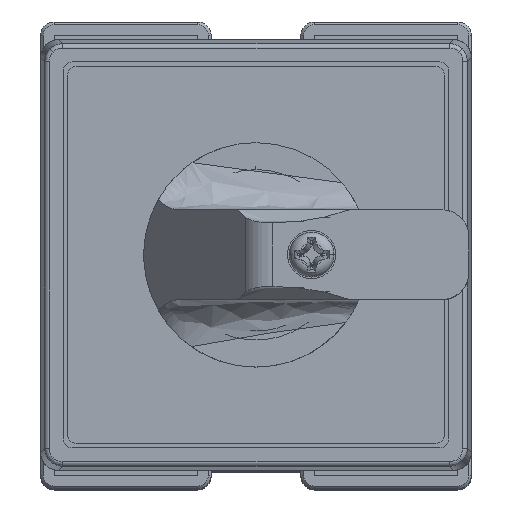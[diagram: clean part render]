
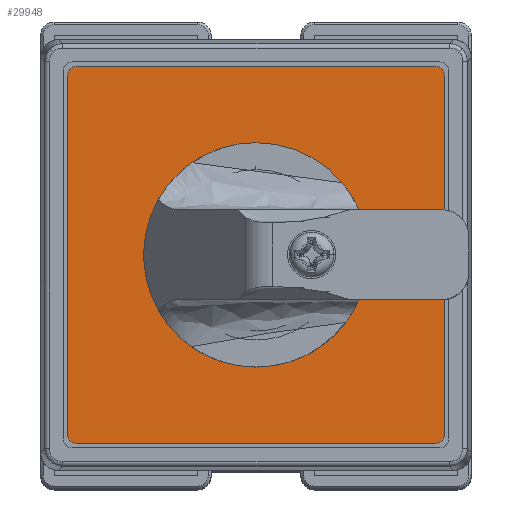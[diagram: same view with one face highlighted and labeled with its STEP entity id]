
A CAD part, top view. The second image highlights one B-rep face of the part: STEP entity #29948.
In plain terms, the highlighted planar face has unit normal (0, 0, 1).
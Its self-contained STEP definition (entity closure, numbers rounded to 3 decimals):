
#10532 = DIRECTION ( 'NONE',  ( 0., 0., 1. ) ) ;
#17238 = EDGE_CURVE ( 'NONE', #184208, #254986, #264894, .T. ) ;
#18656 = EDGE_LOOP ( 'NONE', ( #230741, #203705 ) ) ;
#23817 = CARTESIAN_POINT ( 'NONE',  ( -14.639, -25.111, -44.982 ) ) ;
#29948 = ADVANCED_FACE ( 'NONE', ( #121082, #161622 ), #250257, .T. ) ;
#33981 = VERTEX_POINT ( 'NONE', #166808 ) ;
#37552 = LINE ( 'NONE', #92287, #221754 ) ;
#38969 = CARTESIAN_POINT ( 'NONE',  ( -13.639, 14.889, -44.982 ) ) ;
#43922 = LINE ( 'NONE', #218848, #106492 ) ;
#44716 = DIRECTION ( 'NONE',  ( 0., -1., 0. ) ) ;
#46265 = VERTEX_POINT ( 'NONE', #285422 ) ;
#46593 = CARTESIAN_POINT ( 'NONE',  ( -13.639, 14.889, -44.982 ) ) ;
#47921 = ORIENTED_EDGE ( 'NONE', *, *, #118371, .T. ) ;
#48528 = VERTEX_POINT ( 'NONE', #23817 ) ;
#51330 = EDGE_CURVE ( 'NONE', #201346, #142029, #81443, .T. ) ;
#52523 = VERTEX_POINT ( 'NONE', #102616 ) ;
#63144 = VERTEX_POINT ( 'NONE', #113910 ) ;
#63356 = DIRECTION ( 'NONE',  ( 0., 0., 1. ) ) ;
#63620 = DIRECTION ( 'NONE',  ( 0., 1., 0. ) ) ;
#67969 = CARTESIAN_POINT ( 'NONE',  ( 6.361, 5.239, -44.982 ) ) ;
#80773 = CIRCLE ( 'NONE', #80787, 1. ) ;
#80787 = AXIS2_PLACEMENT_3D ( 'NONE', #46593, #116627, #189741 ) ;
#81443 = CIRCLE ( 'NONE', #263126, 1. ) ;
#81783 = DIRECTION ( 'NONE',  ( 0., -1., 0. ) ) ;
#89817 = ORIENTED_EDGE ( 'NONE', *, *, #212605, .T. ) ;
#92287 = CARTESIAN_POINT ( 'NONE',  ( -14.639, -25.111, -44.982 ) ) ;
#92752 = ORIENTED_EDGE ( 'NONE', *, *, #124027, .T. ) ;
#102072 = LINE ( 'NONE', #111651, #201948 ) ;
#102616 = CARTESIAN_POINT ( 'NONE',  ( -14.639, 14.889, -44.982 ) ) ;
#103357 = CARTESIAN_POINT ( 'NONE',  ( 26.361, -25.111, -44.982 ) ) ;
#106492 = VECTOR ( 'NONE', #289198, 1000. ) ;
#107303 = CARTESIAN_POINT ( 'NONE',  ( 26.361, 14.889, -44.982 ) ) ;
#108961 = DIRECTION ( 'NONE',  ( 0., 0., 1. ) ) ;
#111651 = CARTESIAN_POINT ( 'NONE',  ( -13.639, 15.889, -44.982 ) ) ;
#113632 = EDGE_CURVE ( 'NONE', #48528, #33981, #143587, .T. ) ;
#113910 = CARTESIAN_POINT ( 'NONE',  ( 27.361, 14.889, -44.982 ) ) ;
#115988 = DIRECTION ( 'NONE',  ( 0., 1., 0. ) ) ;
#116627 = DIRECTION ( 'NONE',  ( 0., 0., 1. ) ) ;
#118371 = EDGE_CURVE ( 'NONE', #52523, #48528, #37552, .T. ) ;
#121082 = FACE_OUTER_BOUND ( 'NONE', #161580, .T. ) ;
#124027 = EDGE_CURVE ( 'NONE', #46265, #52523, #80773, .T. ) ;
#124097 = ORIENTED_EDGE ( 'NONE', *, *, #157376, .T. ) ;
#134142 = CIRCLE ( 'NONE', #201786, 1. ) ;
#137630 = VERTEX_POINT ( 'NONE', #299843 ) ;
#142029 = VERTEX_POINT ( 'NONE', #288445 ) ;
#142070 = AXIS2_PLACEMENT_3D ( 'NONE', #228377, #205717, #180827 ) ;
#142978 = EDGE_CURVE ( 'NONE', #142029, #63144, #164835, .T. ) ;
#143587 = CIRCLE ( 'NONE', #233523, 1. ) ;
#157376 = EDGE_CURVE ( 'NONE', #137630, #46265, #102072, .T. ) ;
#161458 = DIRECTION ( 'NONE',  ( 0., -1., 0. ) ) ;
#161580 = EDGE_LOOP ( 'NONE', ( #92752, #47921, #290017, #217610, #301906, #283396, #89817, #124097 ) ) ;
#161622 = FACE_BOUND ( 'NONE', #18656, .T. ) ;
#161842 = EDGE_CURVE ( 'NONE', #33981, #201346, #43922, .T. ) ;
#164835 = LINE ( 'NONE', #276116, #242347 ) ;
#166808 = CARTESIAN_POINT ( 'NONE',  ( -13.639, -26.111, -44.982 ) ) ;
#180827 = DIRECTION ( 'NONE',  ( 0., 1., 0. ) ) ;
#184208 = VERTEX_POINT ( 'NONE', #300100 ) ;
#189741 = DIRECTION ( 'NONE',  ( 0., 1., 0. ) ) ;
#198130 = DIRECTION ( 'NONE',  ( 0., 0., 1. ) ) ;
#201346 = VERTEX_POINT ( 'NONE', #291465 ) ;
#201786 = AXIS2_PLACEMENT_3D ( 'NONE', #107303, #198130, #268388 ) ;
#201948 = VECTOR ( 'NONE', #205591, 1000. ) ;
#203705 = ORIENTED_EDGE ( 'NONE', *, *, #254574, .F. ) ;
#204439 = AXIS2_PLACEMENT_3D ( 'NONE', #38969, #108961, #63620 ) ;
#205591 = DIRECTION ( 'NONE',  ( -1., 0., 0. ) ) ;
#205717 = DIRECTION ( 'NONE',  ( 0., 0., 1. ) ) ;
#212605 = EDGE_CURVE ( 'NONE', #63144, #137630, #134142, .T. ) ;
#217610 = ORIENTED_EDGE ( 'NONE', *, *, #161842, .T. ) ;
#218848 = CARTESIAN_POINT ( 'NONE',  ( -13.639, -26.111, -44.982 ) ) ;
#221754 = VECTOR ( 'NONE', #161458, 1000. ) ;
#228377 = CARTESIAN_POINT ( 'NONE',  ( 6.361, -5.111, -44.982 ) ) ;
#230741 = ORIENTED_EDGE ( 'NONE', *, *, #17238, .F. ) ;
#233523 = AXIS2_PLACEMENT_3D ( 'NONE', #303536, #63356, #44716 ) ;
#242347 = VECTOR ( 'NONE', #115988, 1000. ) ;
#244688 = AXIS2_PLACEMENT_3D ( 'NONE', #270600, #10532, #246733 ) ;
#246733 = DIRECTION ( 'NONE',  ( 0., 1., 0. ) ) ;
#249938 = CIRCLE ( 'NONE', #244688, 10.35 ) ;
#250257 = PLANE ( 'NONE',  #204439 ) ;
#254574 = EDGE_CURVE ( 'NONE', #254986, #184208, #249938, .T. ) ;
#254986 = VERTEX_POINT ( 'NONE', #67969 ) ;
#263126 = AXIS2_PLACEMENT_3D ( 'NONE', #103357, #293327, #81783 ) ;
#264894 = CIRCLE ( 'NONE', #142070, 10.35 ) ;
#268388 = DIRECTION ( 'NONE',  ( 0., -1., 0. ) ) ;
#270600 = CARTESIAN_POINT ( 'NONE',  ( 6.361, -5.111, -44.982 ) ) ;
#276116 = CARTESIAN_POINT ( 'NONE',  ( 27.361, -25.111, -44.982 ) ) ;
#283396 = ORIENTED_EDGE ( 'NONE', *, *, #142978, .T. ) ;
#285422 = CARTESIAN_POINT ( 'NONE',  ( -13.639, 15.889, -44.982 ) ) ;
#288445 = CARTESIAN_POINT ( 'NONE',  ( 27.361, -25.111, -44.982 ) ) ;
#289198 = DIRECTION ( 'NONE',  ( 1., 0., 0. ) ) ;
#290017 = ORIENTED_EDGE ( 'NONE', *, *, #113632, .T. ) ;
#291465 = CARTESIAN_POINT ( 'NONE',  ( 26.361, -26.111, -44.982 ) ) ;
#293327 = DIRECTION ( 'NONE',  ( 0., 0., 1. ) ) ;
#299843 = CARTESIAN_POINT ( 'NONE',  ( 26.361, 15.889, -44.982 ) ) ;
#300100 = CARTESIAN_POINT ( 'NONE',  ( 6.361, -15.461, -44.982 ) ) ;
#301906 = ORIENTED_EDGE ( 'NONE', *, *, #51330, .T. ) ;
#303536 = CARTESIAN_POINT ( 'NONE',  ( -13.639, -25.111, -44.982 ) ) ;
